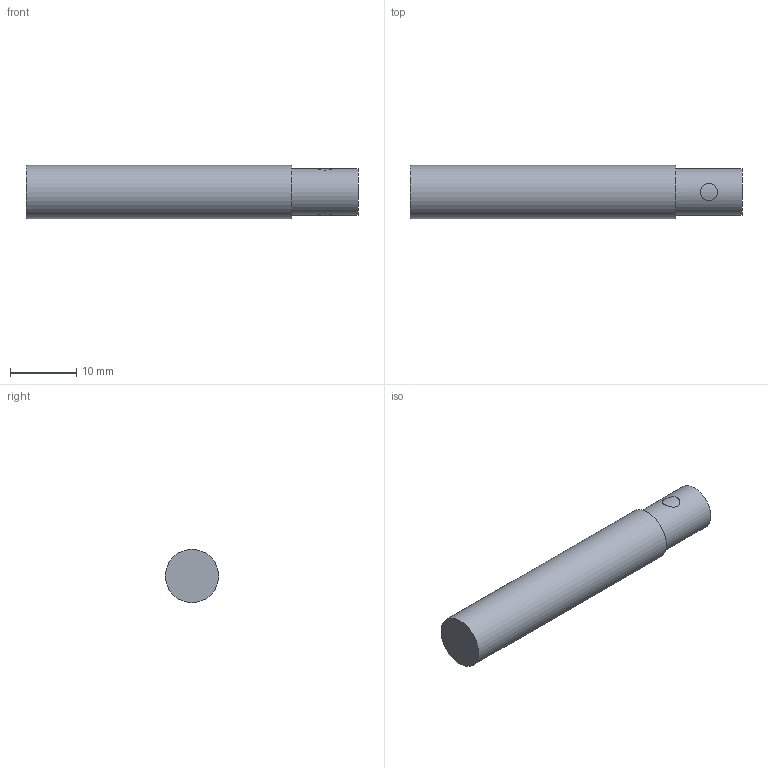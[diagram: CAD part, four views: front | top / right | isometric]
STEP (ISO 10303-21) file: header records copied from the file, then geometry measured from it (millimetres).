
FILE_DESCRIPTION(('FreeCAD Model'),'2;1');
FILE_NAME('Open CASCADE Shape Model','2024-02-09T20:03:40',(''),(''), 'Open CASCADE STEP processor 7.6','FreeCAD','Unknown');
FILE_SCHEMA(('AUTOMOTIVE_DESIGN { 1 0 10303 214 1 1 1 1 }'));
Length unit declared in the file: millimetre
Products named in the file (5): Unnamed; Körper; Sketch; Revolution; Cylinder
Assembly tree (4 placements, depth 2):
  Unnamed
    Körper
    Sketch
    Revolution
    Cylinder
Bounding box: 50 x 8 x 8 mm (x, y, z)
Surface area: 4141.3 mm2
Topology: 3 solids, 3 shells, 25 faces, 53 edges, 46 vertices
Faces by surface type: cylinder 13, plane 12
Full cylindrical faces by diameter (mm): 1 x5, 2.6 x2, 7 x3, 8 x3
Entity records: 1443 total; most frequent: CARTESIAN_POINT 785, DIRECTION 119, ORIENTED_EDGE 90, AXIS2_PLACEMENT_3D 48, EDGE_CURVE 45, FACE_BOUND 37, EDGE_LOOP 37, VERTEX_POINT 30
